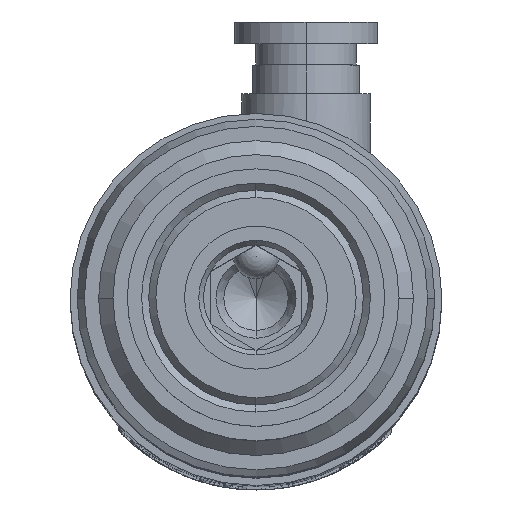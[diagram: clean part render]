
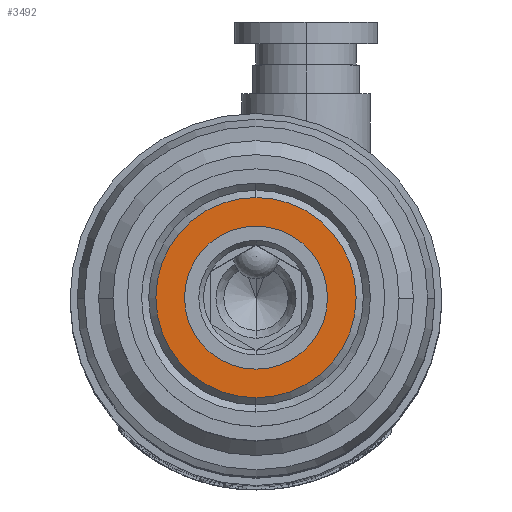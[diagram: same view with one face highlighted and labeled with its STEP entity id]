
A CAD part, top view. The second image highlights one B-rep face of the part: STEP entity #3492.
In plain terms, the highlighted planar face has unit normal (0, 0, 1).
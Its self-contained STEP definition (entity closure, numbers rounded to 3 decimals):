
#3456 = EDGE_CURVE ( 'NONE', #3457, #3458, #8521, .T. ) ;
#3457 = VERTEX_POINT ( 'NONE', #8517 ) ;
#3458 = VERTEX_POINT ( 'NONE', #8516 ) ;
#3489 = VERTEX_POINT ( 'NONE', #8587 ) ;
#3492 = ADVANCED_FACE ( 'NONE', ( #8578, #8577 ), #8576, .F. ) ;
#3493 = EDGE_LOOP ( 'NONE', ( #3494, #3496 ) ) ;
#3494 = ORIENTED_EDGE ( 'NONE', *, *, #3495, .F. ) ;
#3495 = EDGE_CURVE ( 'NONE', #3489, #3603, #8639, .T. ) ;
#3496 = ORIENTED_EDGE ( 'NONE', *, *, #3566, .F. ) ;
#3497 = EDGE_LOOP ( 'NONE', ( #3498, #3552 ) ) ;
#3498 = ORIENTED_EDGE ( 'NONE', *, *, #3499, .T. ) ;
#3499 = EDGE_CURVE ( 'NONE', #3458, #3457, #8634, .T. ) ;
#3552 = ORIENTED_EDGE ( 'NONE', *, *, #3456, .T. ) ;
#3566 = EDGE_CURVE ( 'NONE', #3603, #3489, #8715, .T. ) ;
#3603 = VERTEX_POINT ( 'NONE', #8774 ) ;
#8516 = CARTESIAN_POINT ( 'NONE',  ( -7., 0., 0. ) ) ;
#8517 = CARTESIAN_POINT ( 'NONE',  ( 7., 0., 0. ) ) ;
#8518 = DIRECTION ( 'NONE',  ( 1., 0., 0. ) ) ;
#8519 = DIRECTION ( 'NONE',  ( 0., 0., 1. ) ) ;
#8520 = AXIS2_PLACEMENT_3D ( 'NONE', #8526, #8519, #8518 ) ;
#8521 = CIRCLE ( 'NONE', #8520, 7. ) ;
#8526 = CARTESIAN_POINT ( 'NONE',  ( 0., 0., 0. ) ) ;
#8573 = DIRECTION ( 'NONE',  ( 0., 0., -1. ) ) ;
#8574 = CARTESIAN_POINT ( 'NONE',  ( 0., 5., 0. ) ) ;
#8575 = AXIS2_PLACEMENT_3D ( 'NONE', #8574, #8573, #8640 ) ;
#8576 = PLANE ( 'NONE',  #8575 ) ;
#8577 = FACE_OUTER_BOUND ( 'NONE', #3497, .T. ) ;
#8578 = FACE_BOUND ( 'NONE', #3493, .T. ) ;
#8587 = CARTESIAN_POINT ( 'NONE',  ( 5., 0., 0. ) ) ;
#8630 = DIRECTION ( 'NONE',  ( 1., 0., 0. ) ) ;
#8631 = DIRECTION ( 'NONE',  ( 0., 0., 1. ) ) ;
#8632 = CARTESIAN_POINT ( 'NONE',  ( 0., 0., 0. ) ) ;
#8633 = AXIS2_PLACEMENT_3D ( 'NONE', #8632, #8631, #8630 ) ;
#8634 = CIRCLE ( 'NONE', #8633, 7. ) ;
#8635 = DIRECTION ( 'NONE',  ( 1., 0., 0. ) ) ;
#8636 = DIRECTION ( 'NONE',  ( 0., 0., 1. ) ) ;
#8637 = CARTESIAN_POINT ( 'NONE',  ( 0., 0., 0. ) ) ;
#8638 = AXIS2_PLACEMENT_3D ( 'NONE', #8637, #8636, #8635 ) ;
#8639 = CIRCLE ( 'NONE', #8638, 5. ) ;
#8640 = DIRECTION ( 'NONE',  ( -1., 0., 0. ) ) ;
#8711 = DIRECTION ( 'NONE',  ( 1., 0., 0. ) ) ;
#8712 = DIRECTION ( 'NONE',  ( 0., 0., 1. ) ) ;
#8713 = CARTESIAN_POINT ( 'NONE',  ( 0., 0., 0. ) ) ;
#8714 = AXIS2_PLACEMENT_3D ( 'NONE', #8713, #8712, #8711 ) ;
#8715 = CIRCLE ( 'NONE', #8714, 5. ) ;
#8774 = CARTESIAN_POINT ( 'NONE',  ( -5., 0., 0. ) ) ;
